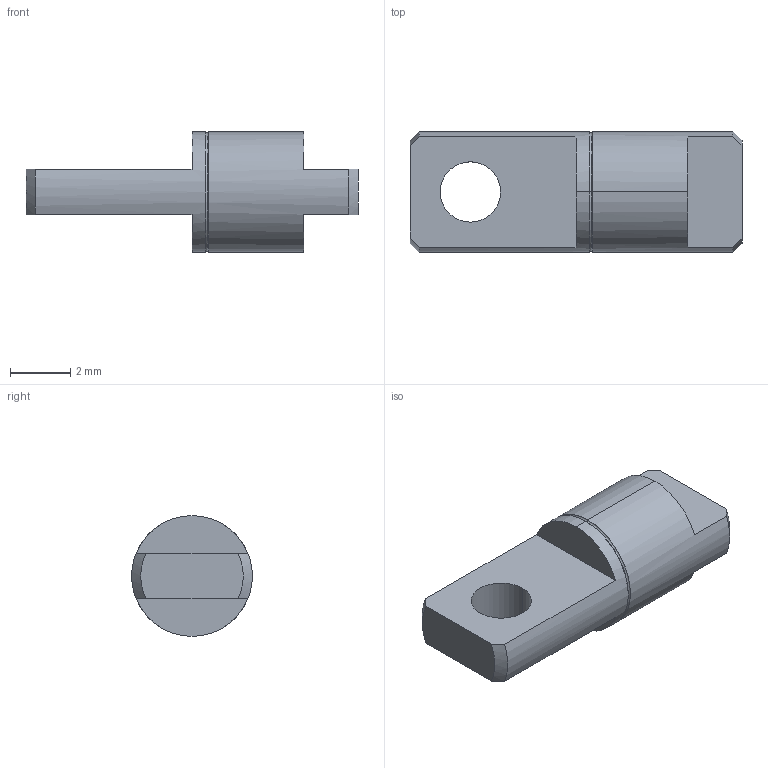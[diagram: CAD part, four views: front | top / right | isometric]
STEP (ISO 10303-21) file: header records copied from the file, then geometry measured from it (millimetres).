
FILE_DESCRIPTION (( 'STEP AP203' ), '1' );
FILE_NAME ('XG11-075-1.STEP', '2025-07-04T05:55:32', ( '微软用户' ), ( '微软中国' ), 'SwSTEP 2.0', 'SolidWorks 2024', '' );
FILE_SCHEMA (( 'CONFIG_CONTROL_DESIGN' ));
Length unit declared in the file: millimetre
Products named in the file (1): XG11-075-1
Bounding box: 11 x 4 x 4 mm (x, y, z)
Volume: 84.2 mm3; surface area: 150.6 mm2
Topology: 1 solids, 1 shells, 24 faces, 60 edges, 38 vertices
Faces by surface type: plane 10, cylinder 6, torus 4, cone 4
Entity records: 815 total; most frequent: CARTESIAN_POINT 147, DIRECTION 132, ORIENTED_EDGE 120, EDGE_CURVE 60, AXIS2_PLACEMENT_3D 55, VERTEX_POINT 38, CIRCLE 30, EDGE_LOOP 26
